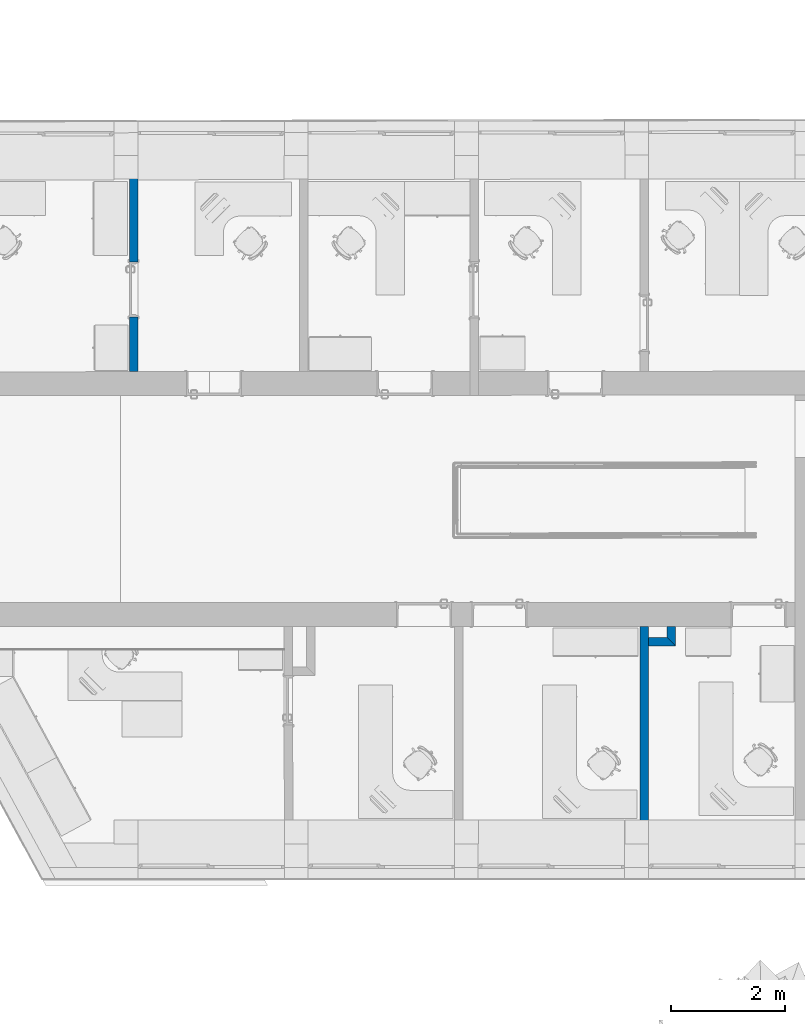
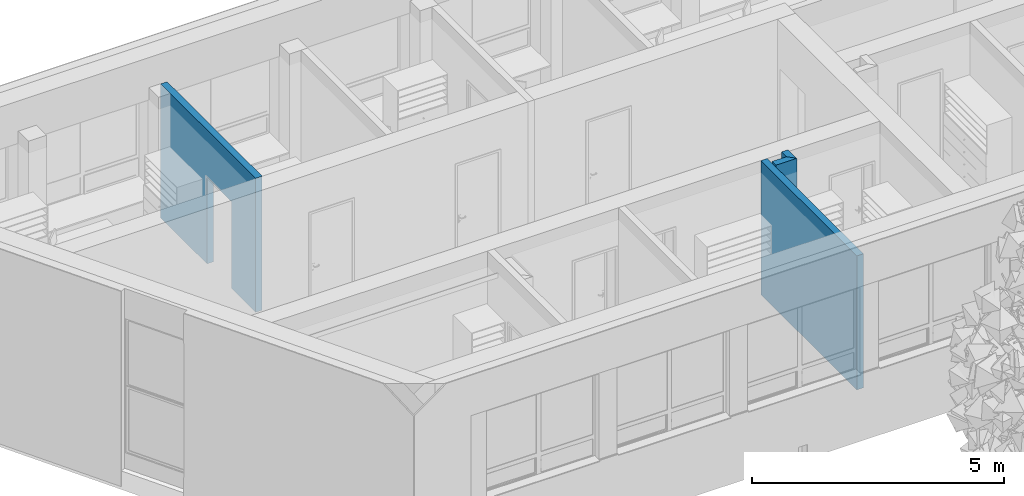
# One storey, part 6 of 194: 4 walls, 1 opening.
"""IFC2X3 building model written with IfcOpenShell, lengths in millimetres."""

from ifc_helpers import new_model, entity, si_unit, converted_unit, derived_unit, money_unit, direction, frame, origin_with_axes, origin_2d_with_axis, place, context, subcontext, project, spatial, polyline, rectangle, outline, extrude, material, layer, layer_set, layer_usage, type_object, element, save


model = new_model("IFC2X3")

# Units and contexts
model_context = context("Model", 3, precision=1e-05, world=origin_with_axes(), true_north=direction((0.0, 1.0)))
body_context = subcontext(model_context, "Body", "Model", "MODEL_VIEW")
ifc_project = project(units=[si_unit("LENGTHUNIT", "METRE", prefix="MILLI"), si_unit("AREAUNIT", "SQUARE_METRE"), si_unit("VOLUMEUNIT", "CUBIC_METRE"), converted_unit("PLANEANGLEUNIT", "DEGREE", entity("IfcPlaneAngleMeasure", 0.0174532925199), si_unit("PLANEANGLEUNIT", "RADIAN"), dimensions=[0, 0, 0, 0, 0, 0, 0]), si_unit("SOLIDANGLEUNIT", "STERADIAN"), money_unit("EUR"), converted_unit("TIMEUNIT", "Year", entity("IfcTimeMeasure", 31556926.0), si_unit("TIMEUNIT", "SECOND"), dimensions=[0, 0, 1, 0, 0, 0, 0]), si_unit("MASSUNIT", "GRAM", prefix="KILO"), si_unit("THERMODYNAMICTEMPERATUREUNIT", "DEGREE_CELSIUS"), si_unit("LUMINOUSINTENSITYUNIT", "LUMEN"), si_unit("ENERGYUNIT", "JOULE", prefix="MEGA"), derived_unit("THERMALCONDUCTANCEUNIT", [(si_unit("POWERUNIT", "WATT"), 1), (si_unit("LENGTHUNIT", "METRE"), -1), (si_unit("THERMODYNAMICTEMPERATUREUNIT", "KELVIN"), -1)]), derived_unit("SPECIFICHEATCAPACITYUNIT", [(si_unit("ENERGYUNIT", "JOULE"), 1), (si_unit("MASSUNIT", "GRAM", prefix="KILO"), -1), (si_unit("THERMODYNAMICTEMPERATUREUNIT", "KELVIN"), -1)]), derived_unit("MASSDENSITYUNIT", [(si_unit("MASSUNIT", "GRAM", prefix="KILO"), 1), (si_unit("VOLUMEUNIT", "CUBIC_METRE"), -1)])], contexts=[model_context])

# Site, building, storey
site_placement = place(None, origin_with_axes())
site = spatial("IfcSite", under=ifc_project, at=site_placement, Name="Site", CompositionType="ELEMENT")
building_placement = place(site_placement, origin_with_axes())
building = spatial("IfcBuilding", under=site, at=building_placement, Name="Building", CompositionType="ELEMENT")
storey_placement = place(building_placement, frame((0.0, 0.0, 3000.0), z_axis=(0.0, 0.0, 1.0), x_axis=(1.0, 0.0, 0.0)))
storey = spatial("IfcBuildingStorey", under=building, at=storey_placement, Name="2 KORRUS", CompositionType="ELEMENT", Elevation=3000.0)

# Wall, opening
ifc_material_1 = material(Name="Kivi -Ol.Olev Konstruktsioon")
ifc_layer_1 = layer(ifc_material_1, 150.0, ventilated="UNKNOWN")
ifc_layer_set_1 = layer_set([ifc_layer_1], Name="ol.olev ss 150")
ifc_layer_usage_1 = layer_usage(ifc_layer_set_1, "AXIS2", "POSITIVE", -150.0)
wall_type_1 = type_object("IfcWallType", Name="SW - 022", PredefinedType="NOTDEFINED")
wall_1_placement = place(storey_placement, frame((19154.3400935, 47291.0925092, 0.0), z_axis=(0.0, 0.0, 1.0), x_axis=(-1.46190796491e-05, -0.999999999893, 0.0)))
wall_1 = element("IfcWallStandardCase", 1, at=wall_1_placement, inside=storey, type_object=wall_type_1, material=ifc_layer_usage_1, Name="ol.olev ss 150", context=body_context, shape_type="SweptSolid", body=[
    extrude(outline(polyline([(430.243447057, -150.0), (4210.24037945, -150.0), (4210.11859324, -1.13686837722e-10), (430.000563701, 0.0), (430.243447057, -150.0)])), origin_with_axes(), (0.0, 0.0, 1.0), 3250.0),
])
opening_placement = place(wall_1_placement, frame((2758.37133384, -1.13686837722e-10, 0.0), z_axis=(0.0, 0.0, 1.0), x_axis=(1.0, 0.0, 0.0)))
element("IfcOpeningElement", 2, at=opening_placement, cuts=wall_1, Name="Siseuks * Door 22", context=body_context, shape_type="SweptSolid", body=[
    extrude(rectangle(XDim=970.0, YDim=2100.0, at=origin_2d_with_axis()), frame((9.09494701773e-10, 150.0, 1050.0), z_axis=(0.0, 1.0, 0.0), x_axis=(1.0, 0.0, 0.0)), (0.0, 0.0, -1.0), 450.0),
    extrude(rectangle(XDim=1044.0, YDim=2137.0, at=origin_2d_with_axis()), frame((0.0, 0.0, 1068.5), z_axis=(0.0, 1.0, 0.0), x_axis=(1.0, 0.0, 0.0)), (0.0, 0.0, 1.0), 150.0),
    extrude(rectangle(XDim=1044.0, YDim=2137.0, at=origin_2d_with_axis()), frame((-9.09494701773e-10, -150.0, 1068.5), z_axis=(0.0, -1.0, 0.0), x_axis=(1.0, 0.0, 0.0)), (0.0, 0.0, 1.0), 150.0),
])

# Walls
ifc_layer_usage_2 = layer_usage(ifc_layer_set_1, "AXIS2", "NEGATIVE", 0.0)
wall_2_placement = place(storey_placement, frame((28152.1018317, 39014.3351234, 0.0), z_axis=(0.0, 0.0, 1.0), x_axis=(0.000801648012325, -0.99999967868, 0.0)))
element("IfcWallStandardCase", 3, at=wall_2_placement, inside=storey, type_object=wall_type_1, material=ifc_layer_usage_2, Name="ol.olev ss 150", context=body_context, shape_type="SweptSolid", body=[
    extrude(outline(polyline([(419.879887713, -150.0), (4233.74037776, -150.0), (4233.84783841, 0.0), (420.000134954, 0.0), (419.879887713, -150.0)])), origin_with_axes(), (0.0, 0.0, 1.0), 3250.0),
])
ifc_material_2 = material(Name="Kivi -  Uus Konstruktsioon")
ifc_layer_2 = layer(ifc_material_2, 150.0, ventilated="UNKNOWN")
ifc_layer_set_2 = layer_set([ifc_layer_2], Name="uus ss 150")
ifc_layer_usage_3 = layer_usage(ifc_layer_set_2, "AXIS2", "NEGATIVE", 0.0)
wall_type_2 = type_object("IfcWallType", Name="SS-1", PredefinedType="NOTDEFINED")
wall_3_placement = place(storey_placement, frame((28152.5934943, 38401.0204662, 0.0), z_axis=(0.0, 0.0, 1.0), x_axis=(0.99999967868, 0.000801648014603, 0.0)))
element("IfcWallStandardCase", 4, at=wall_3_placement, inside=storey, type_object=wall_type_2, material=ifc_layer_usage_3, Name="sahti sein", context=body_context, shape_type="SweptSolid", body=[
    extrude(outline(polyline([(-5.68434188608e-10, -150.000000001), (477.132391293, -150.000000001), (327.252590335, -9.09494701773e-10), (-1.13686837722e-10, 0.0), (-5.68434188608e-10, -150.000000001)])), origin_with_axes(), (0.0, 0.0, 1.0), 3294.8304041),
])
ifc_layer_usage_4 = layer_usage(ifc_layer_set_2, "AXIS2", "NEGATIVE", 0.0)
wall_4_placement = place(storey_placement, frame((28479.8459795, 38401.2828075, 0.0), z_axis=(0.0, 0.0, 1.0), x_axis=(0.0, 1.0, 0.0)))
element("IfcWallStandardCase", 5, at=wall_4_placement, inside=storey, type_object=wall_type_2, material=ifc_layer_usage_4, Name="sahti sein", context=body_context, shape_type="SweptSolid", body=[
    extrude(outline(polyline([(-149.879800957, -150.0), (193.052315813, -150.0), (193.052315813, 0.0), (9.09494701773e-10, 0.0), (-149.879800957, -150.0)])), origin_with_axes(), (0.0, 0.0, 1.0), 3294.8304041),
])

save(model, "model.ifc")
